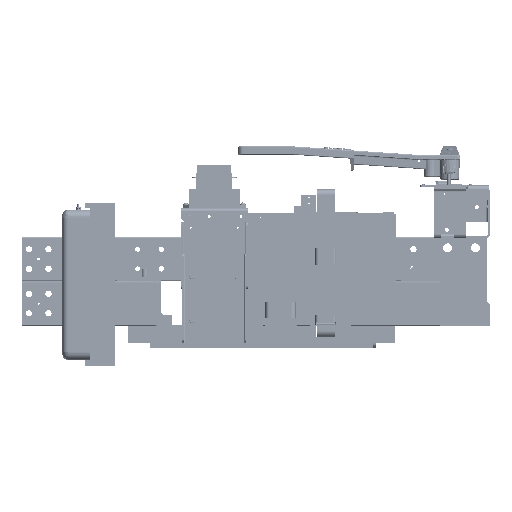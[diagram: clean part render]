
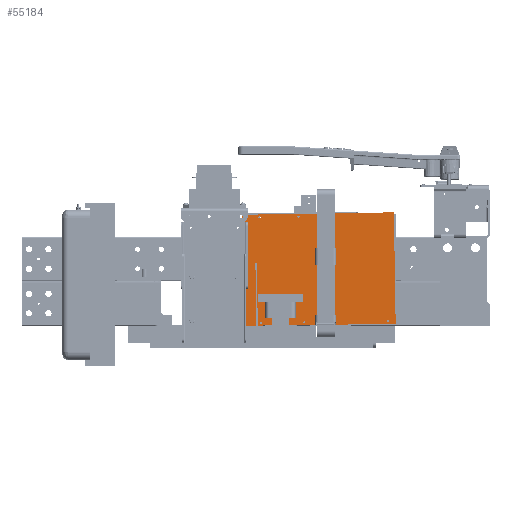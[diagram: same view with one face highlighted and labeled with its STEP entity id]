
A CAD part, left-side view. The second image highlights one B-rep face of the part: STEP entity #55184.
In plain terms, the highlighted planar face has unit normal (-1, 0, 0) as drawn and (0, 0, 1) by its records, which use the part's own axes.
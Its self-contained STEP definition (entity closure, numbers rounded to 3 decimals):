
#2593=FACE_BOUND('',#12163,.T.);
#2594=FACE_BOUND('',#12164,.T.);
#2595=FACE_BOUND('',#12165,.T.);
#2596=FACE_BOUND('',#12166,.T.);
#2597=FACE_BOUND('',#12167,.T.);
#4600=CIRCLE('',#61088,0.097);
#4602=CIRCLE('',#61091,0.097);
#4604=CIRCLE('',#61094,0.097);
#4606=CIRCLE('',#61097,0.097);
#4608=CIRCLE('',#61100,0.097);
#8426=FACE_OUTER_BOUND('',#12162,.T.);
#12162=EDGE_LOOP('',(#45497,#45498,#45499,#45500,#45501,#45502,#45503,#45504,
#45505,#45506,#45507,#45508));
#12163=EDGE_LOOP('',(#45509));
#12164=EDGE_LOOP('',(#45510));
#12165=EDGE_LOOP('',(#45511));
#12166=EDGE_LOOP('',(#45512));
#12167=EDGE_LOOP('',(#45513));
#16701=LINE('',#91420,#21417);
#16704=LINE('',#91426,#21420);
#16707=LINE('',#91432,#21423);
#16710=LINE('',#91438,#21426);
#16713=LINE('',#91444,#21429);
#16716=LINE('',#91450,#21432);
#16719=LINE('',#91456,#21435);
#16722=LINE('',#91462,#21438);
#16725=LINE('',#91468,#21441);
#16728=LINE('',#91474,#21444);
#16731=LINE('',#91480,#21447);
#16734=LINE('',#91484,#21450);
#21417=VECTOR('',#73133,0.394);
#21420=VECTOR('',#73138,0.394);
#21423=VECTOR('',#73143,0.394);
#21426=VECTOR('',#73148,0.394);
#21429=VECTOR('',#73153,0.394);
#21432=VECTOR('',#73158,0.394);
#21435=VECTOR('',#73163,0.394);
#21438=VECTOR('',#73168,0.394);
#21441=VECTOR('',#73173,0.394);
#21444=VECTOR('',#73178,0.394);
#21447=VECTOR('',#73183,0.394);
#21450=VECTOR('',#73188,0.394);
#26199=VERTEX_POINT('',#91386);
#26201=VERTEX_POINT('',#91392);
#26203=VERTEX_POINT('',#91398);
#26205=VERTEX_POINT('',#91404);
#26207=VERTEX_POINT('',#91410);
#26210=VERTEX_POINT('',#91417);
#26211=VERTEX_POINT('',#91419);
#26213=VERTEX_POINT('',#91425);
#26215=VERTEX_POINT('',#91431);
#26217=VERTEX_POINT('',#91437);
#26219=VERTEX_POINT('',#91443);
#26221=VERTEX_POINT('',#91449);
#26223=VERTEX_POINT('',#91455);
#26225=VERTEX_POINT('',#91461);
#26227=VERTEX_POINT('',#91467);
#26229=VERTEX_POINT('',#91473);
#26231=VERTEX_POINT('',#91479);
#32922=EDGE_CURVE('',#26199,#26199,#4600,.T.);
#32925=EDGE_CURVE('',#26201,#26201,#4602,.T.);
#32928=EDGE_CURVE('',#26203,#26203,#4604,.T.);
#32931=EDGE_CURVE('',#26205,#26205,#4606,.T.);
#32934=EDGE_CURVE('',#26207,#26207,#4608,.T.);
#32937=EDGE_CURVE('',#26211,#26210,#16701,.T.);
#32940=EDGE_CURVE('',#26213,#26211,#16704,.T.);
#32943=EDGE_CURVE('',#26215,#26213,#16707,.T.);
#32946=EDGE_CURVE('',#26217,#26215,#16710,.T.);
#32949=EDGE_CURVE('',#26219,#26217,#16713,.T.);
#32952=EDGE_CURVE('',#26221,#26219,#16716,.T.);
#32955=EDGE_CURVE('',#26223,#26221,#16719,.T.);
#32958=EDGE_CURVE('',#26225,#26223,#16722,.T.);
#32961=EDGE_CURVE('',#26227,#26225,#16725,.T.);
#32964=EDGE_CURVE('',#26229,#26227,#16728,.T.);
#32967=EDGE_CURVE('',#26231,#26229,#16731,.T.);
#32970=EDGE_CURVE('',#26210,#26231,#16734,.T.);
#45497=ORIENTED_EDGE('',*,*,#32970,.T.);
#45498=ORIENTED_EDGE('',*,*,#32967,.T.);
#45499=ORIENTED_EDGE('',*,*,#32964,.T.);
#45500=ORIENTED_EDGE('',*,*,#32961,.T.);
#45501=ORIENTED_EDGE('',*,*,#32958,.T.);
#45502=ORIENTED_EDGE('',*,*,#32955,.T.);
#45503=ORIENTED_EDGE('',*,*,#32952,.T.);
#45504=ORIENTED_EDGE('',*,*,#32949,.T.);
#45505=ORIENTED_EDGE('',*,*,#32946,.T.);
#45506=ORIENTED_EDGE('',*,*,#32943,.T.);
#45507=ORIENTED_EDGE('',*,*,#32940,.T.);
#45508=ORIENTED_EDGE('',*,*,#32937,.T.);
#45509=ORIENTED_EDGE('',*,*,#32922,.T.);
#45510=ORIENTED_EDGE('',*,*,#32925,.T.);
#45511=ORIENTED_EDGE('',*,*,#32928,.T.);
#45512=ORIENTED_EDGE('',*,*,#32931,.T.);
#45513=ORIENTED_EDGE('',*,*,#32934,.T.);
#52688=PLANE('',#61113);
#55184=ADVANCED_FACE('',(#8426,#2593,#2594,#2595,#2596,#2597),#52688,.T.);
#61088=AXIS2_PLACEMENT_3D('',#91388,#73099,#73100);
#61091=AXIS2_PLACEMENT_3D('',#91394,#73106,#73107);
#61094=AXIS2_PLACEMENT_3D('',#91400,#73113,#73114);
#61097=AXIS2_PLACEMENT_3D('',#91406,#73120,#73121);
#61100=AXIS2_PLACEMENT_3D('',#91412,#73127,#73128);
#61113=AXIS2_PLACEMENT_3D('',#91485,#73189,#73190);
#73099=DIRECTION('center_axis',(0.,0.,-1.));
#73100=DIRECTION('ref_axis',(-1.,0.,0.));
#73106=DIRECTION('center_axis',(0.,0.,-1.));
#73107=DIRECTION('ref_axis',(-1.,0.,0.));
#73113=DIRECTION('center_axis',(0.,0.,-1.));
#73114=DIRECTION('ref_axis',(-1.,0.,0.));
#73120=DIRECTION('center_axis',(0.,0.,-1.));
#73121=DIRECTION('ref_axis',(-1.,0.,0.));
#73127=DIRECTION('center_axis',(0.,0.,-1.));
#73128=DIRECTION('ref_axis',(-1.,0.,0.));
#73133=DIRECTION('',(1.,0.,0.));
#73138=DIRECTION('',(0.,-1.,0.));
#73143=DIRECTION('',(-1.,0.,0.));
#73148=DIRECTION('',(0.,1.,0.));
#73153=DIRECTION('',(1.,0.,0.));
#73158=DIRECTION('',(0.,-1.,0.));
#73163=DIRECTION('',(-1.,0.,0.));
#73168=DIRECTION('',(0.,-1.,0.));
#73173=DIRECTION('',(1.,0.,0.));
#73178=DIRECTION('',(0.,-1.,0.));
#73183=DIRECTION('',(-1.,0.,0.));
#73188=DIRECTION('',(0.,-1.,0.));
#73189=DIRECTION('center_axis',(0.,0.,1.));
#73190=DIRECTION('ref_axis',(1.,0.,0.));
#91386=CARTESIAN_POINT('',(0.347,12.063,0.125));
#91388=CARTESIAN_POINT('Origin',(0.25,12.063,0.125));
#91392=CARTESIAN_POINT('',(0.347,8.187,0.125));
#91394=CARTESIAN_POINT('Origin',(0.25,8.187,0.125));
#91398=CARTESIAN_POINT('',(0.347,0.688,0.125));
#91400=CARTESIAN_POINT('Origin',(0.25,0.688,0.125));
#91404=CARTESIAN_POINT('',(9.847,12.062,0.125));
#91406=CARTESIAN_POINT('Origin',(9.75,12.062,0.125));
#91410=CARTESIAN_POINT('',(9.847,8.562,0.125));
#91412=CARTESIAN_POINT('Origin',(9.75,8.562,0.125));
#91417=CARTESIAN_POINT('',(5.688,12.5,0.125));
#91419=CARTESIAN_POINT('',(0.,12.5,0.125));
#91420=CARTESIAN_POINT('',(0.,12.5,0.125));
#91425=CARTESIAN_POINT('',(0.,13.625,0.125));
#91426=CARTESIAN_POINT('',(0.,13.625,0.125));
#91431=CARTESIAN_POINT('',(10.,13.625,0.125));
#91432=CARTESIAN_POINT('',(10.,13.625,0.125));
#91437=CARTESIAN_POINT('',(10.,0.,0.125));
#91438=CARTESIAN_POINT('',(10.,0.,0.125));
#91443=CARTESIAN_POINT('',(0.,0.,0.125));
#91444=CARTESIAN_POINT('',(0.,0.,0.125));
#91449=CARTESIAN_POINT('',(0.,5.312,0.125));
#91450=CARTESIAN_POINT('',(0.,5.312,0.125));
#91455=CARTESIAN_POINT('',(0.75,5.312,0.125));
#91456=CARTESIAN_POINT('',(0.75,5.312,0.125));
#91461=CARTESIAN_POINT('',(0.75,7.25,0.125));
#91462=CARTESIAN_POINT('',(0.75,7.25,0.125));
#91467=CARTESIAN_POINT('',(0.,7.25,0.125));
#91468=CARTESIAN_POINT('',(0.,7.25,0.125));
#91473=CARTESIAN_POINT('',(0.,12.375,0.125));
#91474=CARTESIAN_POINT('',(0.,12.375,0.125));
#91479=CARTESIAN_POINT('',(5.688,12.375,0.125));
#91480=CARTESIAN_POINT('',(5.688,12.375,0.125));
#91484=CARTESIAN_POINT('',(5.688,12.5,0.125));
#91485=CARTESIAN_POINT('Origin',(4.513,7.864,0.125));
